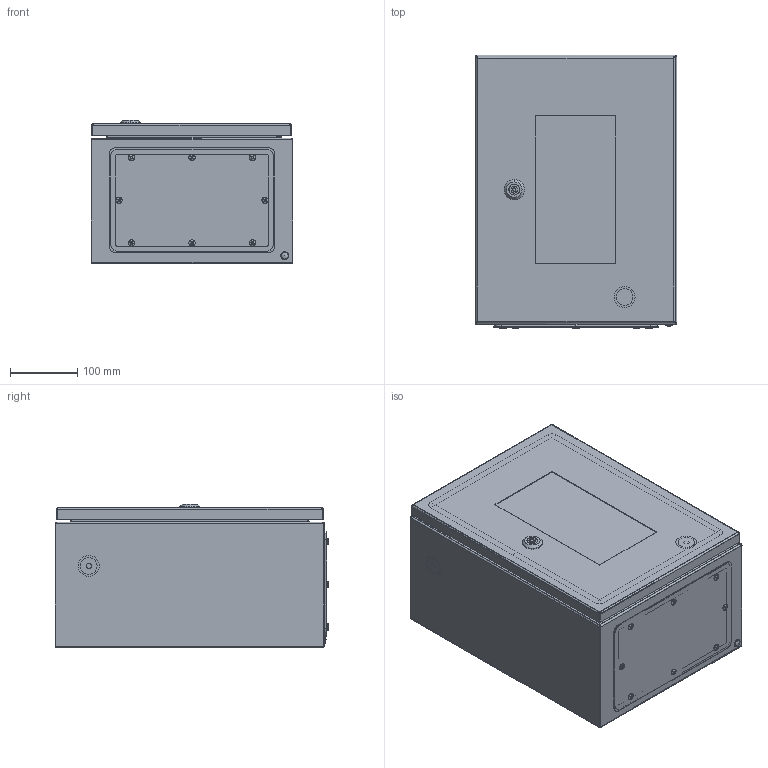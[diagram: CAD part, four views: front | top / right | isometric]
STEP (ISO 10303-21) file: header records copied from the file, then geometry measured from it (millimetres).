
FILE_DESCRIPTION (( 'STEP AP214' ), '1' );
FILE_NAME ('CCV 40.30.21.STEP', '2025-09-18T13:32:22', ( '' ), ( '' ), 'SwSTEP 2.0', 'SolidWorks 2019', '' );
FILE_SCHEMA (( 'AUTOMOTIVE_DESIGN' ));
Length unit declared in the file: millimetre
Products named in the file (27): hex flange nut_din_Hexagon Flange Nut DIN 6923 - M8 - N; Essentra_d9.3_055009300003; CCV X.Y.02.000蚜 拟屦黖CCV 40.30; KIT_Øòèôò_ô5_Ìîäóëü; Essentra_d6,3_1287228; Øïèëüêà çàçåìëåíèÿ Ì6õ17,5_˜¯¨«ìª  § §¥¬«¥­¨ï Œ6å17,5 á ª®«¯ çª®¬; Ãàéêà Ì8 DIN 934; ßçû÷îê çàìêà LC 5DB.S; Ïåòëÿ KIT_Ìîäóëü_êîðïóñíàÿ ÷àñòü â ñáîðå; CCS X.Y.Z.01.000捘 扻豵鵨_CCS 40.30.21; Ïåòëÿ KIT_Ìîäóëü_êîðïóñíàÿ ÷àñòü; Øïèëüêà çàçåìëåíèÿ Ì6õ17,5_˜¯¨«ìª  § §¥¬«¥­¨ï Œ6å17,5; CCV 40.30.21; CCV X.Y.02.002 栺樏鋋_CCV 40.30; ﾇ瑟鶴 LC 5DB.S; Çàìîê LC 5DB.S_‡ ¬®ª LC 5DB.S_45mm; PKV Y.15 相礤朦 赅徨朦眍泐 忖钿郷PKV 30(15); pan head cross recess screw_din_DIN EN ISO 7045 - M5 x 6 - Z - 6N; Ïåòëÿ ïðèâàðíàÿ ÷àñòü; CCV X.Y.02.001 拟屦黖CCV 40.30; KIT_Çàæèìíîå êîëüöî_ïîëèîêñèìåòèëåí_ô5_EMKA 1031-U16; plain washer grade a_din_Washer DIN 125 - A 5.3; MPC X.Y Ïàíåëü ìîíòàæíàÿ_MPC 40.30; CCS X.Y.Z.01.001 扻豵鵨_CCS 40.30.21; Øïèëüêà Ì8õ25; Âèíò ðåçüáîâûäàâëèâàþùèé ñ ïîëóïîòàéíîé ãîëîâêîé Ì5õ12
Assembly tree (50 placements, depth 3):
  CCV 40.30.21
    CCS X.Y.Z.01.000捘 扻豵鵨_CCS 40.30.21
      CCS X.Y.Z.01.001 扻豵鵨_CCS 40.30.21
      Øïèëüêà çàçåìëåíèÿ Ì6õ17,5_˜¯¨«ìª  § §¥¬«¥­¨ï Œ6å17,5  x2
      Øïèëüêà Ì8õ25  x4
    Ïåòëÿ KIT_Ìîäóëü_êîðïóñíàÿ ÷àñòü â ñáîðå
      Ïåòëÿ KIT_Ìîäóëü_êîðïóñíàÿ ÷àñòü
      KIT_Øòèôò_ô5_Ìîäóëü
      KIT_Çàæèìíîå êîëüöî_ïîëèîêñèìåòèëåí_ô5_EMKA 1031-U16
    Ïåòëÿ KIT_Ìîäóëü_êîðïóñíàÿ ÷àñòü â ñáîðå
      Ïåòëÿ KIT_Ìîäóëü_êîðïóñíàÿ ÷àñòü
      KIT_Øòèôò_ô5_Ìîäóëü
      KIT_Çàæèìíîå êîëüöî_ïîëèîêñèìåòèëåí_ô5_EMKA 1031-U16
    CCV X.Y.02.000蚜 拟屦黖CCV 40.30
      CCV X.Y.02.001 拟屦黖CCV 40.30
      Øïèëüêà çàçåìëåíèÿ Ì6õ17,5_˜¯¨«ìª  § §¥¬«¥­¨ï Œ6å17,5 á ª®«¯ çª®¬
      CCV X.Y.02.002 栺樏鋋_CCV 40.30
      Ïåòëÿ ïðèâàðíàÿ ÷àñòü  x2
    MPC X.Y Ïàíåëü ìîíòàæíàÿ_MPC 40.30
    PKV Y.15 相礤朦 赅徨朦眍泐 忖钿郷PKV 30(15)
    pan head cross recess screw_din_DIN EN ISO 7045 - M5 x 6 - Z - 6N  x2
    plain washer grade a_din_Washer DIN 125 - A 5.3  x2
    Ãàéêà Ì8 DIN 934  x4
    hex flange nut_din_Hexagon Flange Nut DIN 6923 - M8 - N  x4
    Âèíò ðåçüáîâûäàâëèâàþùèé ñ ïîëóïîòàéíîé ãîëîâêîé Ì5õ12  x8
    Essentra_d9.3_055009300003
    Essentra_d6,3_1287228  x2
    Çàìîê LC 5DB.S_‡ ¬®ª LC 5DB.S_45mm
      ﾇ瑟鶴 LC 5DB.S
      ßçû÷îê çàìêà LC 5DB.S
Bounding box: 300 x 406.62 x 213.45 mm (x, y, z)
Volume: 1091893.6 mm3; surface area: 1463110 mm2
Topology: 48 solids, 48 shells, 1972 faces, 4837 edges, 2980 vertices
Faces by surface type: cylinder 729, plane 729, cone 242, bspline 132, torus 107, sphere 33
Entity records: 47903 total; most frequent: CARTESIAN_POINT 19734, ORIENTED_EDGE 5574, DIRECTION 5448, EDGE_CURVE 2787, AXIS2_PLACEMENT_3D 2038, VERTEX_POINT 1731, LINE 1372, VECTOR 1372
